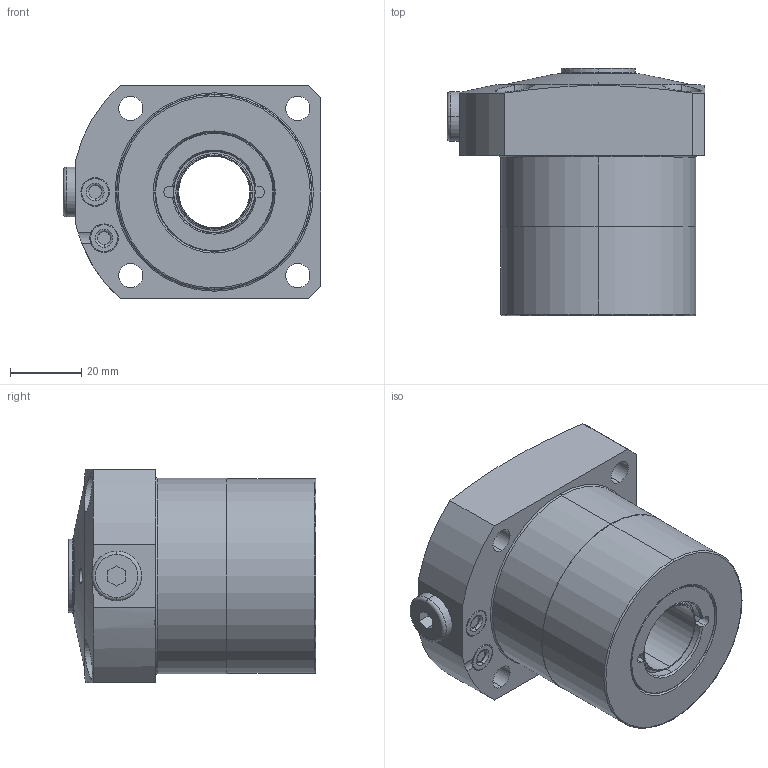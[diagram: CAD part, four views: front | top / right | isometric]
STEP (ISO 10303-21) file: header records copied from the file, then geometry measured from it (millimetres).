
FILE_DESCRIPTION(/* description */ (''),/* implementation_level */ '2;1');
FILE_NAME(/* name */ 'KFSS55-C.stp',/* time_stamp */ '2026-02-06T10:06:17+08:00',/* author */ (''),/* organization */ (''),/* preprocessor_version */ 'ST-DEVELOPER v16.7',/* originating_system */ 'SIEMENS PLM Software NX 12.0',/* authorisation */ '');
FILE_SCHEMA (('AUTOMOTIVE_DESIGN { 1 0 10303 214 3 1 1 1 }'));
Length unit declared in the file: millimetre
Products named in the file (4): KFSS55-C-01; KFSS55-C-02; KFSS55-C-03-P5; LC0553-C-D_step
Assembly tree (4 placements, depth 2):
  LC0553-C-D_step
    KFSS55-C-03-P5  x2
    KFSS55-C-02
    KFSS55-C-01
Bounding box: 72.5 x 69.6 x 60 mm (x, y, z)
Volume: 160956.8 mm3; surface area: 27498.1 mm2
Topology: 4 solids, 4 shells, 183 faces, 418 edges, 255 vertices
Faces by surface type: cylinder 64, plane 45, torus 40, cone 34
Entity records: 5236 total; most frequent: CARTESIAN_POINT 1058, DIRECTION 932, ORIENTED_EDGE 780, AXIS2_PLACEMENT_3D 397, EDGE_CURVE 390, VERTEX_POINT 241, CIRCLE 221, EDGE_LOOP 199
